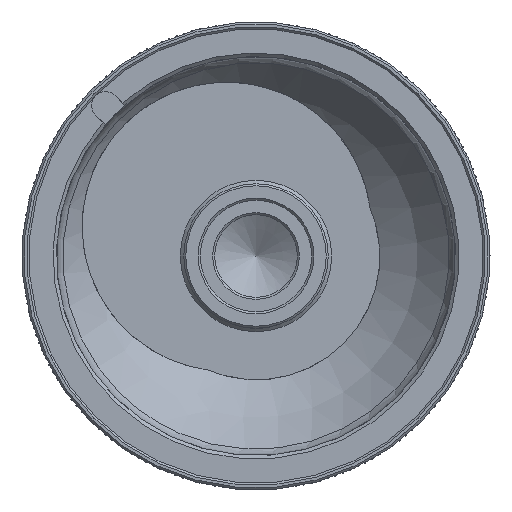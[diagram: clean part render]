
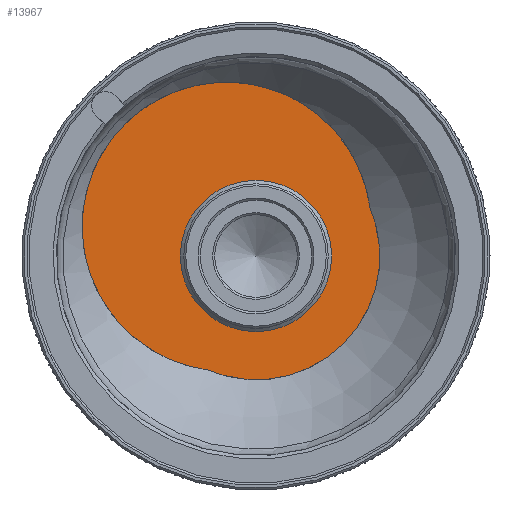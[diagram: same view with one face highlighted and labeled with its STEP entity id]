
A CAD part, left-side view. The second image highlights one B-rep face of the part: STEP entity #13967.
In plain terms, the highlighted planar face has unit normal (-1, 0, 0) as drawn and (0, 0, 1) by its records, which use the part's own axes.
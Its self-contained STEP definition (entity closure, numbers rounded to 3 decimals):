
#786=PLANE('',#22261);
#6769=ORIENTED_EDGE('',*,*,#8904,.T.);
#6770=ORIENTED_EDGE('',*,*,#8905,.T.);
#8904=EDGE_CURVE('',#10063,#10063,#10826,.F.);
#8905=EDGE_CURVE('',#10064,#10064,#10827,.T.);
#10063=VERTEX_POINT('',#32720);
#10064=VERTEX_POINT('',#32722);
#10826=CIRCLE('',#22262,11.);
#10827=CIRCLE('',#22263,32.);
#11794=EDGE_LOOP('',(#6769));
#11795=EDGE_LOOP('',(#6770));
#12790=FACE_BOUND('',#11794,.T.);
#12791=FACE_BOUND('',#11795,.T.);
#13967=ADVANCED_FACE('',(#12790,#12791),#786,.T.);
#22261=AXIS2_PLACEMENT_3D('',#32718,#26271,#26272);
#22262=AXIS2_PLACEMENT_3D('',#32719,#26273,#26274);
#22263=AXIS2_PLACEMENT_3D('',#32721,#26275,#26276);
#26271=DIRECTION('',(0.,0.,1.));
#26272=DIRECTION('',(1.,0.,0.));
#26273=DIRECTION('',(0.,0.,1.));
#26274=DIRECTION('',(1.,0.,0.));
#26275=DIRECTION('',(0.,0.,1.));
#26276=DIRECTION('',(1.,0.,0.));
#32718=CARTESIAN_POINT('',(0.,0.,-32.5));
#32719=CARTESIAN_POINT('',(0.,0.,-32.5));
#32720=CARTESIAN_POINT('',(11.,0.,-32.5));
#32721=CARTESIAN_POINT('',(0.,0.,-32.5));
#32722=CARTESIAN_POINT('',(32.,0.,-32.5));
